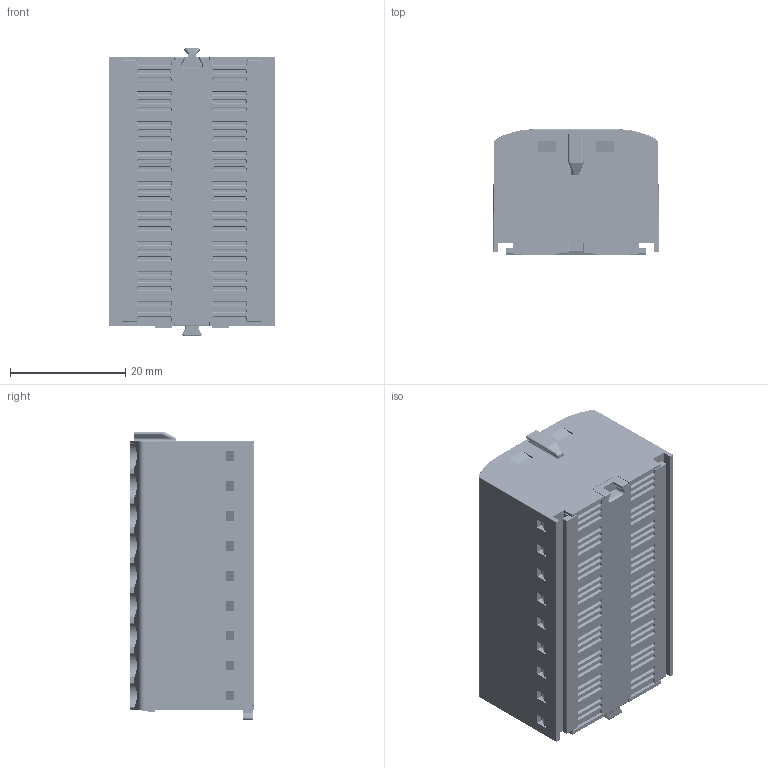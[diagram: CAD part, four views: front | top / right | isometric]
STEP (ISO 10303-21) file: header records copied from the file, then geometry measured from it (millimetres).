
FILE_DESCRIPTION((''),'2;1');
FILE_NAME('JUT15-18X2_5_ASSY','2024-12-30T11:26:35',('Administrator'),(''),'CREO PARAMETRIC BY PTC INC, 2018050','CREO PARAMETRIC BY PTC INC, 2018050','');
FILE_SCHEMA(('CONFIG_CONTROL_DESIGN'));
Length unit declared in the file: millimetre
Products named in the file (1): JUT15-18X2_5_ASSY
Bounding box: 28.8 x 21.7 x 50.1 mm (x, y, z)
Volume: 22480 mm3; surface area: 21035.5 mm2
Topology: 1 solids, 34 shells, 8731 faces, 23185 edges, 13756 vertices
Faces by surface type: plane 3732, cylinder 3111, sphere 900, bspline 466, torus 374, cone 112, extrusion 36
Entity records: 285096 total; most frequent: CARTESIAN_POINT 75950, ORIENTED_EDGE 44726, DIRECTION 42783, EDGE_CURVE 22363, AXIS2_PLACEMENT_3D 14746, VERTEX_POINT 13756, VECTOR 13291, LINE 13255
